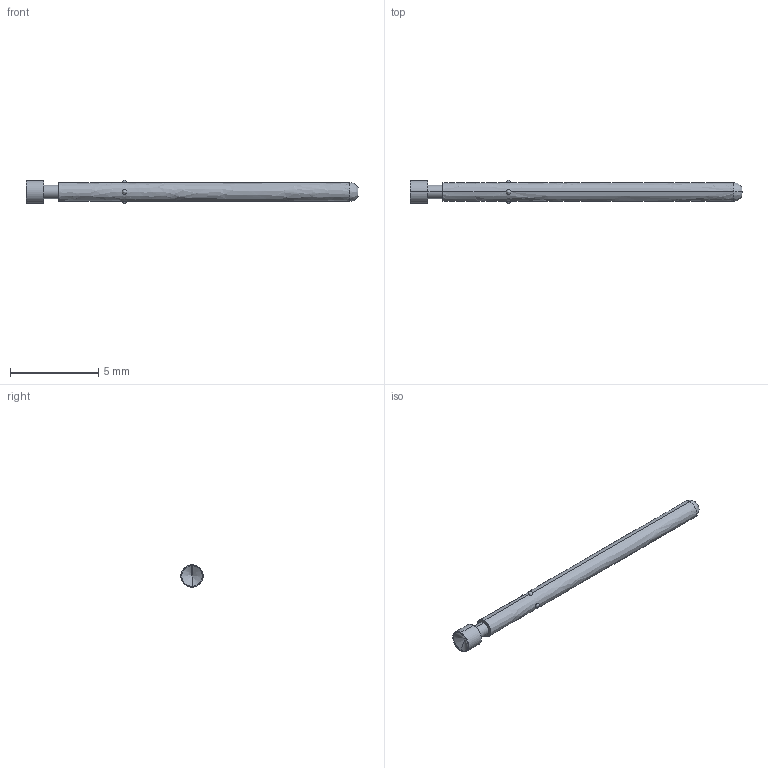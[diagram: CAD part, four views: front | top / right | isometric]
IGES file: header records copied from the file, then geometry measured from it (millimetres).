
Start section: SolidWorks IGES file using analytic representation for surfaces
Global section: file name: O:\PYLON\IGES FILES\P2663\P2663G-1V1S REC'D.IGS; native system: SolidWorks 2015; preprocessor: SolidWorks 2015; author: kgolden; date: 171019.103657; units: inch
Bounding box: 18.82 x 1.32 x 1.32 mm (x, y, z)
Surface area: 70.6 mm2 (no closed solid volume)
Topology: 0 solids, 0 shells, 24 faces, 300 edges, 282 vertices
Faces by surface type: revolution 18, bspline 6
